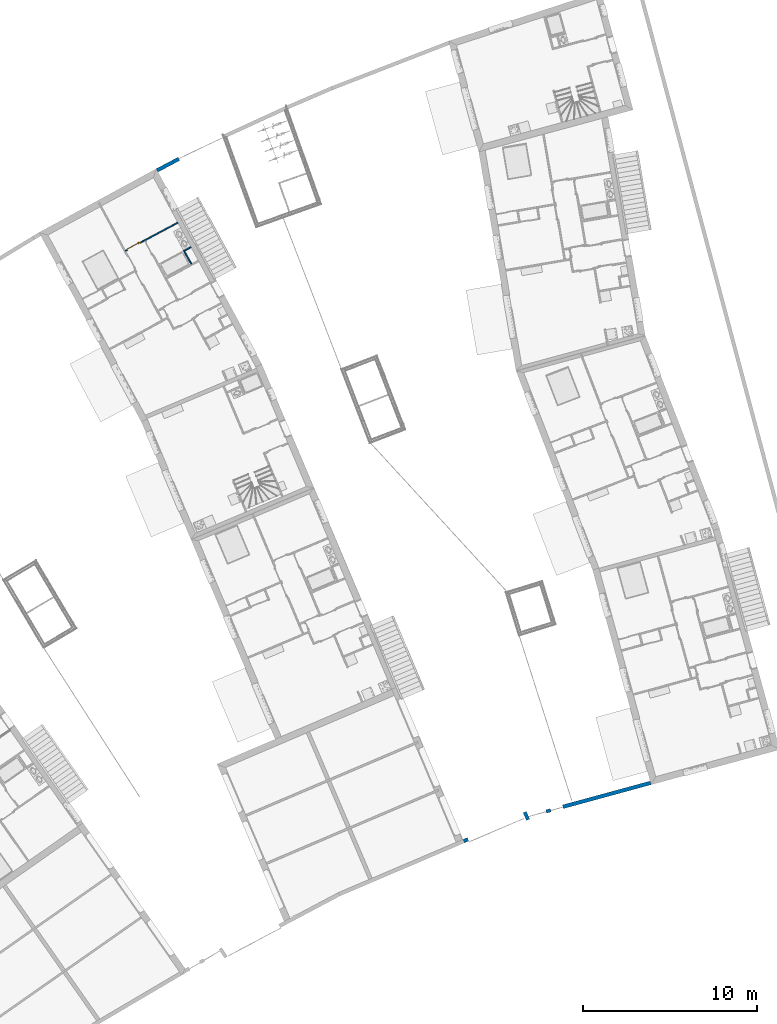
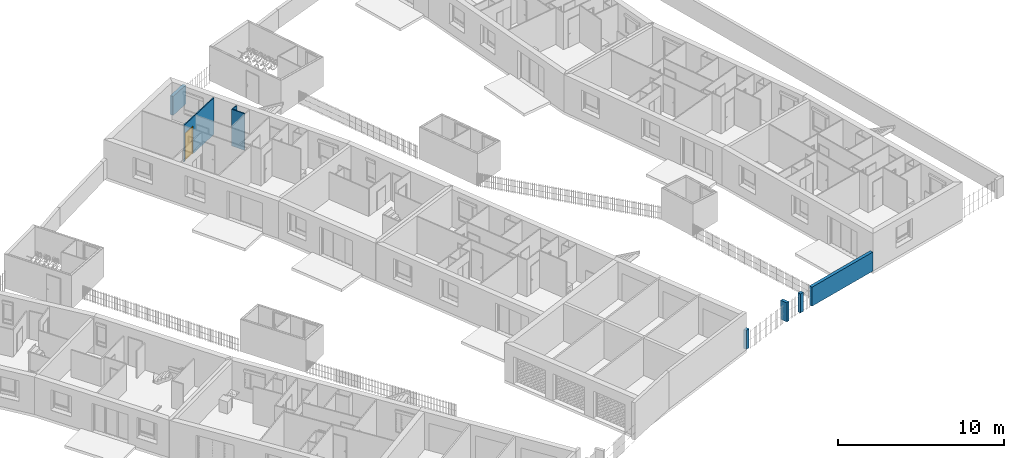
# One storey, part 69 of 195: 8 walls, 1 door, 1 opening.
"""IFC2X3 building model written with IfcOpenShell, lengths in metres."""

from ifc_helpers import new_model, entity, si_unit, converted_unit, derived_unit, money_unit, direction, frame, origin_with_axes, origin_2d_with_axis, place, context, subcontext, project, spatial, polyline, rectangle, outline, extrude, faceted_brep, source, transform, mapped, material, layer, layer_set, layer_usage, type_object, element, fill, save


model = new_model("IFC2X3")

# Units and contexts
model_context = context("Model", 3, precision=1e-05, world=origin_with_axes(), true_north=direction((0.0, 1.0)))
body_context = subcontext(model_context, "Body", "Model", "MODEL_VIEW")
ifc_project = project(units=[si_unit("LENGTHUNIT", "METRE"), si_unit("AREAUNIT", "SQUARE_METRE"), si_unit("VOLUMEUNIT", "CUBIC_METRE"), converted_unit("PLANEANGLEUNIT", "DEGREE", entity("IfcPlaneAngleMeasure", 0.0174532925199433), si_unit("PLANEANGLEUNIT", "RADIAN"), dimensions=[0, 0, 0, 0, 0, 0, 0]), money_unit("CHF"), converted_unit("TIMEUNIT", "Year", entity("IfcTimeMeasure", 31557600.0), si_unit("TIMEUNIT", "SECOND"), dimensions=[0, 0, 1, 0, 0, 0, 0]), si_unit("MASSUNIT", "GRAM", prefix="KILO"), si_unit("THERMODYNAMICTEMPERATUREUNIT", "DEGREE_CELSIUS"), si_unit("LUMINOUSINTENSITYUNIT", "LUMEN"), si_unit("ENERGYUNIT", "JOULE", prefix="MEGA"), derived_unit("THERMALCONDUCTANCEUNIT", [(si_unit("POWERUNIT", "WATT"), 1), (si_unit("LENGTHUNIT", "METRE"), -1), (si_unit("THERMODYNAMICTEMPERATUREUNIT", "KELVIN"), -1)]), derived_unit("SPECIFICHEATCAPACITYUNIT", [(si_unit("ENERGYUNIT", "JOULE"), 1), (si_unit("MASSUNIT", "GRAM", prefix="KILO"), -1), (si_unit("THERMODYNAMICTEMPERATUREUNIT", "KELVIN"), -1)]), derived_unit("MASSDENSITYUNIT", [(si_unit("MASSUNIT", "GRAM", prefix="KILO"), 1), (si_unit("VOLUMEUNIT", "CUBIC_METRE"), -1)])], contexts=[model_context])

# Site, building, storey
site_placement = place(None, origin_with_axes())
site = spatial("IfcSite", under=ifc_project, at=site_placement, Name="Site", CompositionType="ELEMENT")
building_placement = place(site_placement, origin_with_axes())
building = spatial("IfcBuilding", under=site, at=building_placement, Name="Bâtiment", CompositionType="ELEMENT")
storey_placement = place(building_placement, origin_with_axes())
storey = spatial("IfcBuildingStorey", under=building, at=storey_placement, Name="rdc", CompositionType="ELEMENT", Elevation=0.0)

# Wall, opening, door
ifc_material_1 = material(Name="Hachure solide 268963992")
ifc_layer_1 = layer(ifc_material_1, 0.07, ventilated="UNKNOWN")
ifc_layer_set_1 = layer_set([ifc_layer_1], Name="Cloison 70 0826278243")
ifc_layer_usage_1 = layer_usage(ifc_layer_set_1, "AXIS2", "NEGATIVE", 0.0)
wall_type_1 = type_object("IfcWallType", Name="Cloison 70 0826278243 70", PredefinedType="NOTDEFINED")
wall_1_placement = place(storey_placement, frame((9562.876864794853, -1026.953845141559, 57.7), z_axis=(0.0, 0.0, 1.0), x_axis=(-0.8798137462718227, -0.4753186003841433, 0.0)))
wall_1 = element("IfcWallStandardCase", 1, at=wall_1_placement, inside=storey, type_object=wall_type_1, material=ifc_layer_usage_1, Name="Mur-149", context=body_context, shape_type="SweptSolid", body=[
    extrude(outline(polyline([(0.3800000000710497, -0.06999999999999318), (3.798769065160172, -0.07000000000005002), (3.798769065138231, 0.0), (0.3800000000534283, 0.0), (0.3800000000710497, -0.06999999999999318)])), origin_with_axes(), (0.0, 0.0, 1.0), 2.7),
])
opening_placement = place(wall_1_placement, frame((3.258124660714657, 0.0, 0.0), z_axis=(0.0, 0.0, 1.0), x_axis=(1.0, 0.0, 0.0)))
opening = element("IfcOpeningElement", 2, at=opening_placement, cuts=wall_1, Name="Por-303", context=body_context, shape_type="SweptSolid", body=[
    extrude(rectangle(XDim=0.9099999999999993, YDim=2.079999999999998, at=origin_2d_with_axis()), frame((0.0, 0.07000000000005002, 1.039999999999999), z_axis=(0.0, 1.0, 0.0), x_axis=(1.0, 0.0, 0.0)), (0.0, 0.0, -1.0), 0.14),
])
door_style = type_object("IfcDoorStyle", Name="Porte_1v", ConstructionType="NOTDEFINED", OperationType="NOTDEFINED", ParameterTakesPrecedence=False, Sizeable=False)
shared_shape = source(origin_with_axes(), body_context, "Body", "Brep", [
    faceted_brep([(-0.455, 0.0, 0.0), (-0.455, 0.0, 2.08), (0.455, 0.0, 2.08), (0.455, 0.0, 0.0), (0.415, 0.0, 0.0), (0.415, 0.0, 2.04), (-0.415, 0.0, 2.04), (-0.415, 0.0, 0.0), (-0.455, -0.07, 0.0), (-0.455, -0.07, 2.08), (0.455, -0.07, 2.08), (0.455, -0.07, 0.0), (0.4, -0.07, 0.0), (0.4, -0.015, 0.0), (0.415, -0.015, 0.0), (0.415, -0.015, 2.04), (-0.415, -0.015, 2.04), (-0.415, -0.015, 0.0), (-0.4, -0.015, 0.0), (-0.4, -0.07, 0.0), (-0.4, -0.07, 2.025), (0.4, -0.07, 2.025), (0.4, -0.015, 2.025), (-0.4, -0.015, 2.025)], [[[0, 1, 2, 3, 4, 5, 6, 7]], [[8, 9, 1, 0]], [[9, 10, 2, 1]], [[10, 11, 3, 2]], [[3, 11, 12, 13, 14, 4]], [[5, 4, 14, 15]], [[6, 5, 15, 16]], [[7, 6, 16, 17]], [[0, 7, 17, 18, 19, 8]], [[19, 20, 21, 12, 11, 10, 9, 8]], [[22, 13, 12, 21]], [[17, 16, 15, 14, 13, 22, 23, 18]], [[18, 23, 20, 19]], [[23, 22, 21, 20]]]),
    faceted_brep([(0.35, -0.015, 0.9), (0.35, -0.015, 1.1), (0.39, -0.015, 1.1), (0.39, -0.015, 0.9), (0.35, -0.025, 0.9), (0.35, -0.025, 1.1), (0.39, -0.025, 1.1), (0.39, -0.025, 0.9)], [[[0, 1, 2, 3]], [[0, 4, 5, 1]], [[1, 5, 6, 2]], [[2, 6, 7, 3]], [[3, 7, 4, 0]], [[7, 6, 5, 4]]]),
    faceted_brep([(0.28, -0.025, 1.0), (0.28, -0.025, 1.02), (0.38, -0.025, 1.02), (0.38, -0.025, 1.0), (0.28, -0.045, 1.0), (0.28, -0.045, 1.02), (0.38, -0.045, 1.02), (0.38, -0.045, 1.0)], [[[0, 1, 2, 3]], [[0, 4, 5, 1]], [[1, 5, 6, 2]], [[2, 6, 7, 3]], [[3, 7, 4, 0]], [[7, 6, 5, 4]]]),
    faceted_brep([(0.35, 0.035, 0.9), (0.35, 0.035, 1.1), (0.39, 0.035, 1.1), (0.39, 0.035, 0.9), (0.35, 0.025, 0.9), (0.35, 0.025, 1.1), (0.39, 0.025, 1.1), (0.39, 0.025, 0.9)], [[[0, 1, 2, 3]], [[0, 4, 5, 1]], [[1, 5, 6, 2]], [[2, 6, 7, 3]], [[3, 7, 4, 0]], [[7, 6, 5, 4]]]),
    faceted_brep([(0.28, 0.05500000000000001, 1.0), (0.28, 0.05500000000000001, 1.02), (0.38, 0.05500000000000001, 1.02), (0.38, 0.05500000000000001, 1.0), (0.28, 0.035, 1.0), (0.28, 0.035, 1.02), (0.38, 0.035, 1.02), (0.38, 0.035, 1.0)], [[[0, 1, 2, 3]], [[0, 4, 5, 1]], [[1, 5, 6, 2]], [[2, 6, 7, 3]], [[3, 7, 4, 0]], [[7, 6, 5, 4]]]),
    faceted_brep([(0.415, 0.025, 0.0), (0.415, -0.015, 0.0), (-0.415, -0.015, 0.0), (-0.415, 0.025, 0.0), (0.415, 0.025, 2.04), (0.415, -0.015, 2.04), (-0.415, -0.015, 2.04), (-0.415, 0.025, 2.04)], [[[0, 1, 2, 3]], [[4, 5, 1, 0]], [[1, 5, 6, 2]], [[3, 2, 6, 7]], [[0, 3, 7, 4]], [[7, 6, 5, 4]]]),
])
door_placement = place(opening_placement, frame((0.4150000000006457, 0.0, 0.0), z_axis=(0.0, 0.0, 1.0), x_axis=(-1.0, 0.0, 0.0)))
door = element("IfcDoor", 3, at=door_placement, inside=storey, type_object=door_style, Name="Por-303", OverallHeight=2.04, OverallWidth=0.83, context=body_context, shape_type="MappedRepresentation", body=[
    mapped(shared_shape, transform((0.4149999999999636, 0.06999999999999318, 0.0))),
])
fill(opening, door)

# Walls
ifc_layer_usage_2 = layer_usage(ifc_layer_set_1, "AXIS2", "NEGATIVE", 0.0)
wall_2_placement = place(storey_placement, frame((9562.940127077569, -1028.74774167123, 57.7), z_axis=(0.0, 0.0, 1.0), x_axis=(0.4753186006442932, -0.8798137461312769, 0.0)))
element("IfcWallStandardCase", 4, at=wall_2_placement, inside=storey, type_object=wall_type_1, material=ifc_layer_usage_2, Name="Mur-149", context=body_context, shape_type="SweptSolid", body=[
    extrude(outline(polyline([(-0.06999999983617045, -0.06999999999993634), (0.8299999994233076, -0.06999999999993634), (0.8299999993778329, 0.0), (0.0, 0.0), (-0.06999999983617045, -0.06999999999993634)])), origin_with_axes(), (0.0, 0.0, 1.0), 2.7),
])
ifc_layer_usage_3 = layer_usage(ifc_layer_set_1, "AXIS2", "NEGATIVE", 0.0)
wall_3_placement = place(storey_placement, frame((9563.641350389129, -1028.368906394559, 57.7), z_axis=(0.0, 0.0, 1.0), x_axis=(-0.8798137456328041, -0.4753186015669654, 0.0)))
element("IfcWallStandardCase", 5, at=wall_3_placement, inside=storey, type_object=wall_type_1, material=ifc_layer_usage_3, Name="Mur-149", context=body_context, shape_type="SweptSolid", body=[
    extrude(outline(polyline([(0.3800000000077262, -0.06999999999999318), (0.8670133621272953, -0.06999999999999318), (0.7970133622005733, 0.0), (0.38000000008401, 0.0), (0.3800000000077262, -0.06999999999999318)])), origin_with_axes(), (0.0, 0.0, 1.0), 2.7),
])
ifc_material_2 = material(Name="Parpaing 312445824")
ifc_layer_2 = layer(ifc_material_2, 0.22, ventilated="UNKNOWN")
ifc_layer_set_2 = layer_set([ifc_layer_2], Name="Beton  22 0836643198")
ifc_layer_usage_4 = layer_usage(ifc_layer_set_2, "AXIS2", "NEGATIVE", 0.0)
wall_type_2 = type_object("IfcWallType", Name="Beton  22 0836643198 220", PredefinedType="NOTDEFINED")
wall_4_placement = place(storey_placement, frame((9561.285709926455, -1024.008620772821, 57.7), z_axis=(0.0, 0.0, 1.0), x_axis=(0.8836000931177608, 0.4682423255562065, 0.0)))
element("IfcWallStandardCase", 6, at=wall_4_placement, inside=storey, type_object=wall_type_2, material=ifc_layer_usage_4, Name="Mur-108", context=body_context, shape_type="SweptSolid", body=[
    extrude(outline(polyline([(0.001765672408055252, -0.2199999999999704), (1.42378080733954, -0.2199999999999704), (1.42378080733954, 0.0), (0.0, 0.0), (0.001765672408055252, -0.2199999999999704)])), origin_with_axes(), (0.0, 0.0, 1.0), 1.399999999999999),
])
ifc_layer_usage_5 = layer_usage(ifc_layer_set_2, "AXIS2", "NEGATIVE", 0.0)
wall_5_placement = place(storey_placement, frame((9579.258510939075, -1062.667670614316, 57.7), z_axis=(0.0, 0.0, 1.0), x_axis=(-0.9197472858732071, -0.3925110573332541, 0.0)))
element("IfcWallStandardCase", 7, at=wall_5_placement, inside=storey, type_object=wall_type_2, material=ifc_layer_usage_5, Name="Mur-108", context=body_context, shape_type="SweptSolid", body=[
    extrude(outline(polyline([(0.0, -0.2200000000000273), (0.2628600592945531, -0.2200000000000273), (0.2628376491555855, 0.0), (0.0, 0.0), (0.0, -0.2200000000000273)])), origin_with_axes(), (0.0, 0.0, 1.0), 1.4),
])
ifc_material_3 = material(Name="MANQUANT")
ifc_layer_3 = layer(ifc_material_3, 0.2, ventilated="UNKNOWN")
ifc_layer_set_3 = layer_set([ifc_layer_3], Name="MANQUANT 0.2")
ifc_layer_usage_6 = layer_usage(ifc_layer_set_3, "AXIS2", "POSITIVE", 0.0)
wall_type_3 = type_object("IfcWallType", Name="MANQUANT 200", PredefinedType="NOTDEFINED")
wall_6_placement = place(storey_placement, frame((9583.939749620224, -1060.801908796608, 57.7), z_axis=(0.0, 0.0, 1.0), x_axis=(-0.9648682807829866, -0.2627340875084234, 0.0)))
element("IfcWallStandardCase", 8, at=wall_6_placement, inside=storey, type_object=wall_type_3, material=ifc_layer_usage_6, Name="Mur-151", context=body_context, shape_type="SweptSolid", body=[
    extrude(outline(polyline([(0.0, 0.0), (0.2624142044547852, 0.0), (0.2624142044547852, 0.2000000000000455), (0.0, 0.2000000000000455), (0.0, 0.0)])), origin_with_axes(), (0.0, 0.0, 1.0), 1.4),
])
ifc_layer_usage_7 = layer_usage(ifc_layer_set_3, "AXIS2", "NEGATIVE", 0.0)
wall_7_placement = place(storey_placement, frame((9582.576521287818, -1061.485070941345, 57.7), z_axis=(0.0, 0.0, 1.0), x_axis=(-0.4024118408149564, 0.9154587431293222, 0.0)))
element("IfcWallStandardCase", 9, at=wall_7_placement, inside=storey, type_object=wall_type_3, material=ifc_layer_usage_7, Name="Mur-151", context=body_context, shape_type="SweptSolid", body=[
    extrude(outline(polyline([(0.0, -0.1999999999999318), (0.485602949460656, -0.1999999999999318), (0.485602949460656, 0.0), (0.0, 0.0), (0.0, -0.1999999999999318)])), origin_with_axes(), (0.0, 0.0, 1.0), 1.4),
])
ifc_material_4 = material(Name="Empty Fill 3000033799")
ifc_layer_4 = layer(ifc_material_4, 0.22, ventilated="UNKNOWN")
ifc_layer_set_4 = layer_set([ifc_layer_4], Name="acrotère 22")
ifc_layer_usage_8 = layer_usage(ifc_layer_set_4, "AXIS2", "NEGATIVE", 0.0)
wall_type_4 = type_object("IfcWallType", Name="acrotère 22 220", PredefinedType="NOTDEFINED")
wall_8_placement = place(storey_placement, frame((9589.740388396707, -1059.429674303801, 57.7), z_axis=(0.0, 0.0, 1.0), x_axis=(-0.964868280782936, -0.2627340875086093, 0.0)))
element("IfcWallStandardCase", 10, at=wall_8_placement, inside=storey, type_object=wall_type_4, material=ifc_layer_usage_8, Name="Mur-108", context=body_context, shape_type="SweptSolid", body=[
    extrude(outline(polyline([(-3.210516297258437e-10, -0.2200000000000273), (5.223669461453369, -0.2200000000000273), (5.223669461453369, 0.0), (0.0, 0.0), (-3.210516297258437e-10, -0.2200000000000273)])), origin_with_axes(), (0.0, 0.0, 1.0), 1.4),
])

save(model, "model.ifc")
